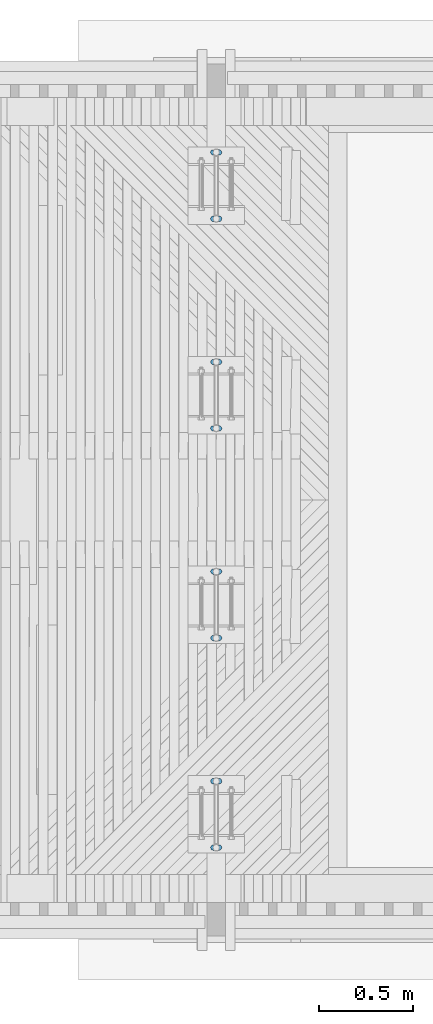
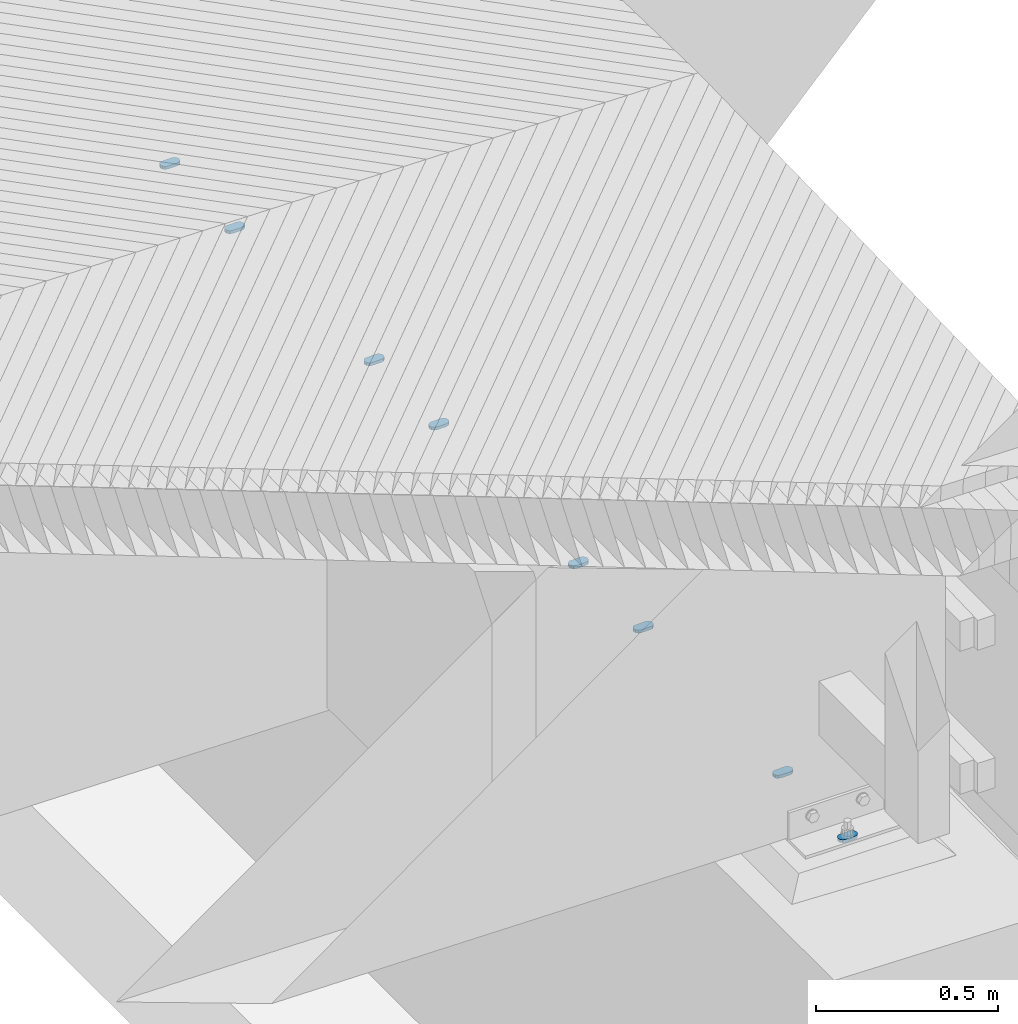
# One storey, part 5 of 52: 8 mechanical fasteners.
"""IFC2X3 building model written with IfcOpenShell, lengths in millimetres."""

from ifc_helpers import new_model, si_unit, frame, origin_with_axes, place, context, subcontext, project, spatial, faceted_brep, source, transform, mapped, material, type_object, element, save


model = new_model("IFC2X3")

# Units and contexts
model_context = context("Model", 3, precision=1e-05, world=origin_with_axes())
body_context = subcontext(model_context, "Body", "Model", "MODEL_VIEW")
ifc_project = project(units=[si_unit("LENGTHUNIT", "METRE", prefix="MILLI"), si_unit("AREAUNIT", "SQUARE_METRE"), si_unit("VOLUMEUNIT", "CUBIC_METRE"), si_unit("MASSUNIT", "GRAM", prefix="KILO"), si_unit("TIMEUNIT", "SECOND"), si_unit("PLANEANGLEUNIT", "RADIAN"), si_unit("SOLIDANGLEUNIT", "STERADIAN"), si_unit("THERMODYNAMICTEMPERATUREUNIT", "DEGREE_CELSIUS"), si_unit("LUMINOUSINTENSITYUNIT", "LUMEN")], contexts=[model_context])

# Site, building, storey
site_placement = place(None, origin_with_axes())
site = spatial("IfcSite", under=ifc_project, at=site_placement, Name="Undefined", CompositionType="ELEMENT")
building_placement = place(site_placement, origin_with_axes())
building = spatial("IfcBuilding", under=site, at=building_placement, Name="Undefined", CompositionType="ELEMENT")
storey_placement = place(building_placement, origin_with_axes())
storey = spatial("IfcBuildingStorey", under=building, at=storey_placement, Name="Undefined", CompositionType="ELEMENT", Elevation=0.0)

# Mechanical fasteners
ifc_material = material(Name="Undefined")
mechanical_fastener_type = type_object("IfcMechanicalFastenerType", Name="Bolt assembly")
shared_shape = source(origin_with_axes(), body_context, "Body", "Brep", [
    faceted_brep([(30.0, -9.99999999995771, 0.0), (28.8581929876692, -9.99999999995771, 5.7402514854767), (25.6066017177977, -9.99999999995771, 10.6066017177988), (20.7402514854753, -9.99999999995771, 13.8581929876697), (-15.0000000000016, -9.99999999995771, 15.0), (-22.5000000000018, -9.99999999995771, 12.9903810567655), (-27.9903810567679, -9.99999999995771, 7.49999999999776), (-30.0, -9.99999999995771, -3.10900794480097e-12), (-27.9903810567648, -9.99999999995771, -7.50000000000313), (-22.4999999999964, -9.99999999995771, -12.9903810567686), (-14.9999999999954, -9.99999999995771, -15.0), (15.0000000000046, -9.99999999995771, -15.0), (22.5000000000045, -9.99999999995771, -12.990381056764), (27.9903810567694, -9.99999999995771, -7.49999999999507), (30.0, 0.100000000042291, 0.0), (27.9903810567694, 0.100000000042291, -7.49999999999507), (22.5000000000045, 0.100000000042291, -12.990381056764), (15.0000000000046, 0.100000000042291, -15.0), (-14.9999999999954, 0.100000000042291, -15.0), (-22.4999999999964, 0.100000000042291, -12.9903810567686), (-27.9903810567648, 0.100000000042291, -7.50000000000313), (-30.0, 0.100000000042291, -3.10900794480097e-12), (-27.9903810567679, 0.100000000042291, 7.49999999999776), (-22.5000000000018, 0.100000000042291, 12.9903810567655), (-15.0000000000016, 0.100000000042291, 15.0), (20.7402514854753, 0.100000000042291, 13.8581929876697), (25.6066017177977, 0.100000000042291, 10.6066017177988), (28.8581929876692, 0.100000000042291, 5.7402514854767)], [[[0, 1, 2, 3, 4, 5, 6, 7, 8, 9, 10, 11, 12, 13]], [[14, 15, 16, 17, 18, 19, 20, 21, 22, 23, 24, 25, 26, 27]], [[0, 14, 27, 1]], [[1, 27, 26, 2]], [[2, 26, 25, 3]], [[3, 25, 24, 4]], [[4, 24, 23, 5]], [[5, 23, 22, 6]], [[6, 22, 21, 7]], [[7, 21, 20, 8]], [[8, 20, 19, 9]], [[9, 19, 18, 10]], [[10, 18, 17, 11]], [[11, 17, 16, 12]], [[12, 16, 15, 13]], [[13, 15, 14, 0]]]),
])
for number, where, z_axis, x_axis, name in (
    (1, (16000.0, 2747.50000000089, 2007.32999999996), (0.0, 1.0, 0.0), (-1.0, 0.0, 0.0), "Bolt assembly"),
    (2, (16000.0, 3102.50000000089, 2007.32999999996), (0.0, 1.0, 0.0), (-1.0, 0.0, 0.0), "Bolt assembly"),
    (3, (16000.0, 3867.50000000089, 1985.32999999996), (0.0, 1.0, 0.0), (-1.0, 0.0, 0.0), "Bolt assembly"),
    (4, (16000.0, 4222.50000000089, 1985.32999999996), (0.0, 1.0, 0.0), (-1.0, 0.0, 0.0), "Bolt assembly"),
    (5, (16000.0, 1982.5, 2007.32999999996), (0.0, 1.0, 0.0), (-1.0, 0.0, 0.0), "Bolt assembly"),
    (6, (16000.0, 1627.5, 2007.32999999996), (0.0, 1.0, 0.0), (-1.0, 0.0, 0.0), "Bolt assembly"),
    (7, (16000.0, 862.5, 1985.32999999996), (0.0, 1.0, 0.0), (-1.0, 0.0, 0.0), "Bolt assembly"),
    (8, (16000.0, 507.5, 1985.32999999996), (0.0, 1.0, 0.0), (-1.0, 0.0, 0.0), "Bolt assembly"),
):
    element("IfcMechanicalFastener", number, at=place(storey_placement, frame(where, z_axis=z_axis, x_axis=x_axis)), inside=storey, type_object=mechanical_fastener_type, material=ifc_material, Name=name, NominalDiameter=20.0, NominalLength=30.0, context=body_context, shape_type="MappedRepresentation", body=[
        mapped(shared_shape, transform((0.0, 0.0, 0.0))),
    ])

save(model, "model.ifc")
